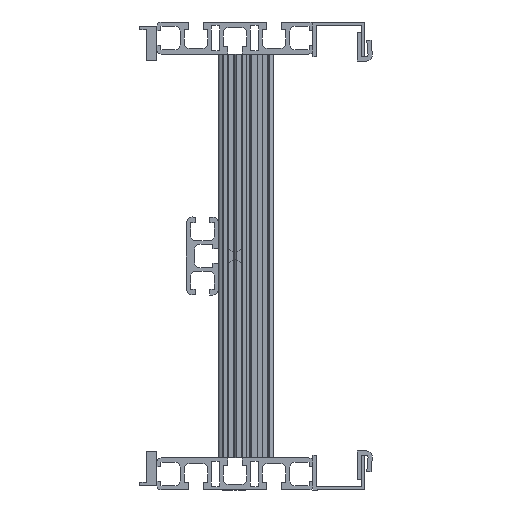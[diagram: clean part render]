
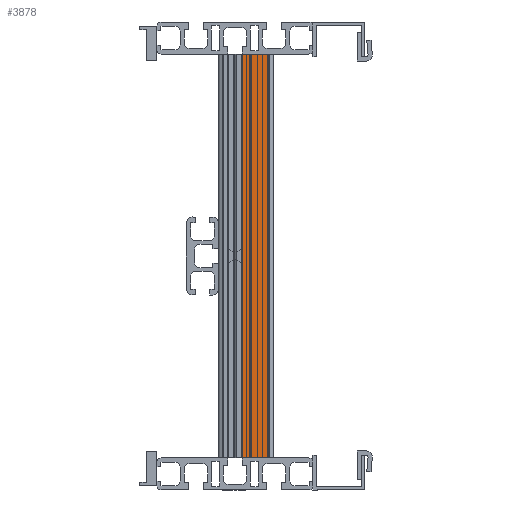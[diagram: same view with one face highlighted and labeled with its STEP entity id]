
A CAD part, left-side view. The second image highlights one B-rep face of the part: STEP entity #3878.
In plain terms, the highlighted planar face has unit normal (-1, 0, 0).
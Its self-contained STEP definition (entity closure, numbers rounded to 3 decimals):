
#296 = DIRECTION ( 'NONE',  ( 0., 0., -1. ) ) ;
#299 = DIRECTION ( 'NONE',  ( 1., 0., 0. ) ) ;
#479 = PLANE ( 'NONE',  #8303 ) ;
#611 = CARTESIAN_POINT ( 'NONE',  ( -1000., -65., -116.5 ) ) ;
#3382 = EDGE_CURVE ( 'NONE', #28975, #29052, #12763, .T. ) ;
#3388 = EDGE_CURVE ( 'NONE', #28947, #28975, #12764, .T. ) ;
#3402 = EDGE_CURVE ( 'NONE', #28639, #29052, #12774, .T. ) ;
#3420 = EDGE_CURVE ( 'NONE', #28947, #28639, #12797, .T. ) ;
#3651 = DIRECTION ( 'NONE',  ( 0., 1., 0. ) ) ;
#3653 = CARTESIAN_POINT ( 'NONE',  ( -1000., -65., 116.5 ) ) ;
#3662 = DIRECTION ( 'NONE',  ( 0., 0., 1. ) ) ;
#3878 = ADVANCED_FACE ( 'NONE', ( #13336 ), #479, .F. ) ;
#3903 = CARTESIAN_POINT ( 'NONE',  ( -1000., -65., -116.5 ) ) ;
#3973 = DIRECTION ( 'NONE',  ( 0., 0., 1. ) ) ;
#3984 = CARTESIAN_POINT ( 'NONE',  ( -1000., -49.15, -116.5 ) ) ;
#6599 = ORIENTED_EDGE ( 'NONE', *, *, #3388, .T. ) ;
#6600 = ORIENTED_EDGE ( 'NONE', *, *, #3382, .T. ) ;
#6670 = ORIENTED_EDGE ( 'NONE', *, *, #3420, .F. ) ;
#6671 = ORIENTED_EDGE ( 'NONE', *, *, #3402, .F. ) ;
#8303 = AXIS2_PLACEMENT_3D ( 'NONE', #611, #299, #296 ) ;
#12758 = VECTOR ( 'NONE', #3651, 1000. ) ;
#12762 = VECTOR ( 'NONE', #3973, 1000. ) ;
#12763 = LINE ( 'NONE', #3653, #12758 ) ;
#12764 = LINE ( 'NONE', #3903, #12770 ) ;
#12770 = VECTOR ( 'NONE', #3662, 1000. ) ;
#12774 = LINE ( 'NONE', #3984, #12762 ) ;
#12797 = LINE ( 'NONE', #30244, #12800 ) ;
#12800 = VECTOR ( 'NONE', #30105, 1000. ) ;
#13336 = FACE_OUTER_BOUND ( 'NONE', #27927, .T. ) ;
#26371 = CARTESIAN_POINT ( 'NONE',  ( -1000., -49.15, -116.5 ) ) ;
#26564 = CARTESIAN_POINT ( 'NONE',  ( -1000., -65., -116.5 ) ) ;
#26580 = CARTESIAN_POINT ( 'NONE',  ( -1000., -65., 116.5 ) ) ;
#26627 = CARTESIAN_POINT ( 'NONE',  ( -1000., -49.15, 116.5 ) ) ;
#27927 = EDGE_LOOP ( 'NONE', ( #6600, #6671, #6670, #6599 ) ) ;
#28639 = VERTEX_POINT ( 'NONE', #26371 ) ;
#28947 = VERTEX_POINT ( 'NONE', #26564 ) ;
#28975 = VERTEX_POINT ( 'NONE', #26580 ) ;
#29052 = VERTEX_POINT ( 'NONE', #26627 ) ;
#30105 = DIRECTION ( 'NONE',  ( 0., 1., 0. ) ) ;
#30244 = CARTESIAN_POINT ( 'NONE',  ( -1000., -65., -116.5 ) ) ;
